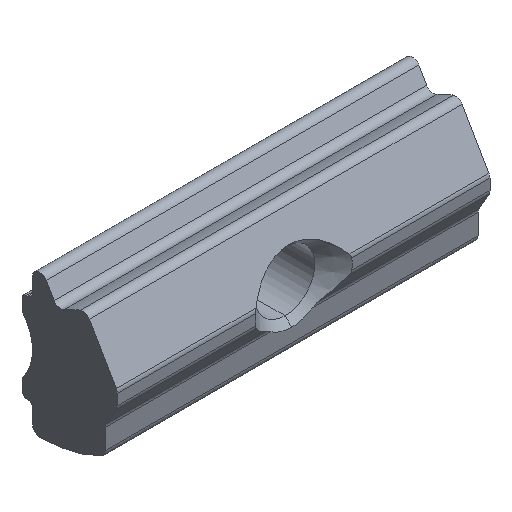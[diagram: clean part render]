
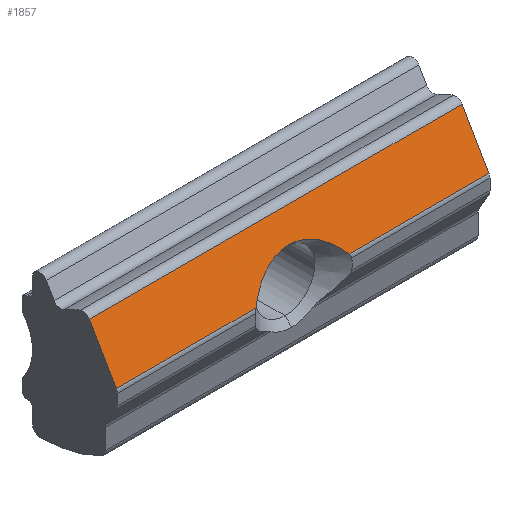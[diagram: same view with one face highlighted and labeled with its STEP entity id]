
A CAD part, isometric view. The second image highlights one B-rep face of the part: STEP entity #1857.
In plain terms, the highlighted planar face has unit normal (0, -0.866, 0.5).
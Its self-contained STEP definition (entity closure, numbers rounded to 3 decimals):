
#1462=CARTESIAN_POINT('',(15.392,0.229,8.109));
#1463=VERTEX_POINT('',#1462);
#1471=CARTESIAN_POINT('',(6.016,0.229,8.109));
#1472=VERTEX_POINT('',#1471);
#1473=CARTESIAN_POINT('',(6.016,0.229,8.109));
#1474=DIRECTION('',(1.0,0.,0.));
#1475=VECTOR('',#1474,9.376);
#1476=LINE('',#1473,#1475);
#1477=EDGE_CURVE('',#1472,#1463,#1476,.T.);
#1530=CARTESIAN_POINT('',(15.392,2.033,11.234));
#1531=VERTEX_POINT('',#1530);
#1539=CARTESIAN_POINT('',(15.392,0.229,8.109));
#1540=DIRECTION('',(0.0,0.5,0.866));
#1541=VECTOR('',#1540,3.608);
#1542=LINE('',#1539,#1541);
#1543=EDGE_CURVE('',#1463,#1531,#1542,.T.);
#1576=CARTESIAN_POINT('',(-9.608,2.033,11.234));
#1577=VERTEX_POINT('',#1576);
#1585=CARTESIAN_POINT('',(15.392,2.033,11.234));
#1586=DIRECTION('',(-1.0,0.0,0.0));
#1587=VECTOR('',#1586,25.0);
#1588=LINE('',#1585,#1587);
#1589=EDGE_CURVE('',#1531,#1577,#1588,.T.);
#1601=CARTESIAN_POINT('',(-9.608,0.229,8.109));
#1602=VERTEX_POINT('',#1601);
#1611=CARTESIAN_POINT('',(-0.232,0.229,8.109));
#1612=VERTEX_POINT('',#1611);
#1620=CARTESIAN_POINT('',(-9.608,0.229,8.109));
#1621=DIRECTION('',(1.0,0.,0.));
#1622=VECTOR('',#1621,9.376);
#1623=LINE('',#1620,#1622);
#1624=EDGE_CURVE('',#1602,#1612,#1623,.T.);
#1696=CARTESIAN_POINT('',(-9.608,2.033,11.234));
#1697=DIRECTION('',(0.0,-0.5,-0.866));
#1698=VECTOR('',#1697,3.608);
#1699=LINE('',#1696,#1698);
#1700=EDGE_CURVE('',#1577,#1602,#1699,.T.);
#1811=CARTESIAN_POINT('',(15.392,1.131,9.672));
#1812=DIRECTION('',(0.0,-0.866,0.5));
#1813=DIRECTION('',(1.0,0.0,0.0));
#1814=AXIS2_PLACEMENT_3D('',#1811,#1812,#1813);
#1815=PLANE('',#1814);
#1816=ORIENTED_EDGE('',*,*,#1700,.T.);
#1817=ORIENTED_EDGE('',*,*,#1624,.T.);
#1818=CARTESIAN_POINT('',(2.892,1.171,9.742));
#1819=VERTEX_POINT('',#1818);
#1820=CARTESIAN_POINT('',(2.892,1.171,9.741));
#1821=CARTESIAN_POINT('',(2.376,1.171,9.741));
#1822=CARTESIAN_POINT('',(1.863,1.104,9.624));
#1823=CARTESIAN_POINT('',(1.405,0.985,9.418));
#1824=CARTESIAN_POINT('',(0.836,0.838,9.163));
#1825=CARTESIAN_POINT('',(0.351,0.617,8.78));
#1826=CARTESIAN_POINT('',(-0.04,0.363,8.34));
#1827=CARTESIAN_POINT('',(-0.106,0.319,8.265));
#1828=CARTESIAN_POINT('',(-0.17,0.275,8.188));
#1829=CARTESIAN_POINT('',(-0.232,0.229,8.109));
#1830=B_SPLINE_CURVE_WITH_KNOTS('',3,(#1820,#1821,#1822,#1823,#1824,#1825,#1826,#1827,#1828,#1829),.UNSPECIFIED.,.F.,.U.,(4,3,3,4),(0.,0.408,0.914,1.0),.UNSPECIFIED.);
#1831=EDGE_CURVE('',#1819,#1612,#1830,.T.);
#1832=ORIENTED_EDGE('',*,*,#1831,.F.);
#1833=CARTESIAN_POINT('',(4.625,0.915,9.298));
#1834=VERTEX_POINT('',#1833);
#1835=CARTESIAN_POINT('',(4.625,0.915,9.298));
#1836=CARTESIAN_POINT('',(4.184,1.052,9.534));
#1837=CARTESIAN_POINT('',(3.683,1.142,9.69));
#1838=CARTESIAN_POINT('',(3.167,1.165,9.73));
#1839=CARTESIAN_POINT('',(3.076,1.169,9.737));
#1840=CARTESIAN_POINT('',(2.984,1.171,9.741));
#1841=CARTESIAN_POINT('',(2.892,1.171,9.741));
#1842=B_SPLINE_CURVE_WITH_KNOTS('',3,(#1835,#1836,#1837,#1838,#1839,#1840,#1841),.UNSPECIFIED.,.F.,.U.,(4,3,4),(0.0,0.85,1.),.UNSPECIFIED.);
#1843=EDGE_CURVE('',#1834,#1819,#1842,.T.);
#1844=ORIENTED_EDGE('',*,*,#1843,.F.);
#1845=CARTESIAN_POINT('',(6.016,0.229,8.109));
#1846=CARTESIAN_POINT('',(5.648,0.501,8.58));
#1847=CARTESIAN_POINT('',(5.184,0.743,8.999));
#1848=CARTESIAN_POINT('',(4.625,0.915,9.298));
#1849=QUASI_UNIFORM_CURVE('',3,(#1845,#1846,#1847,#1848),.UNSPECIFIED.,.F.,.U.);
#1850=EDGE_CURVE('',#1472,#1834,#1849,.T.);
#1851=ORIENTED_EDGE('',*,*,#1850,.F.);
#1852=ORIENTED_EDGE('',*,*,#1477,.T.);
#1853=ORIENTED_EDGE('',*,*,#1543,.T.);
#1854=ORIENTED_EDGE('',*,*,#1589,.T.);
#1855=EDGE_LOOP('',(#1816,#1817,#1832,#1844,#1851,#1852,#1853,#1854));
#1856=FACE_OUTER_BOUND('',#1855,.T.);
#1857=ADVANCED_FACE('',(#1856),#1815,.T.);
